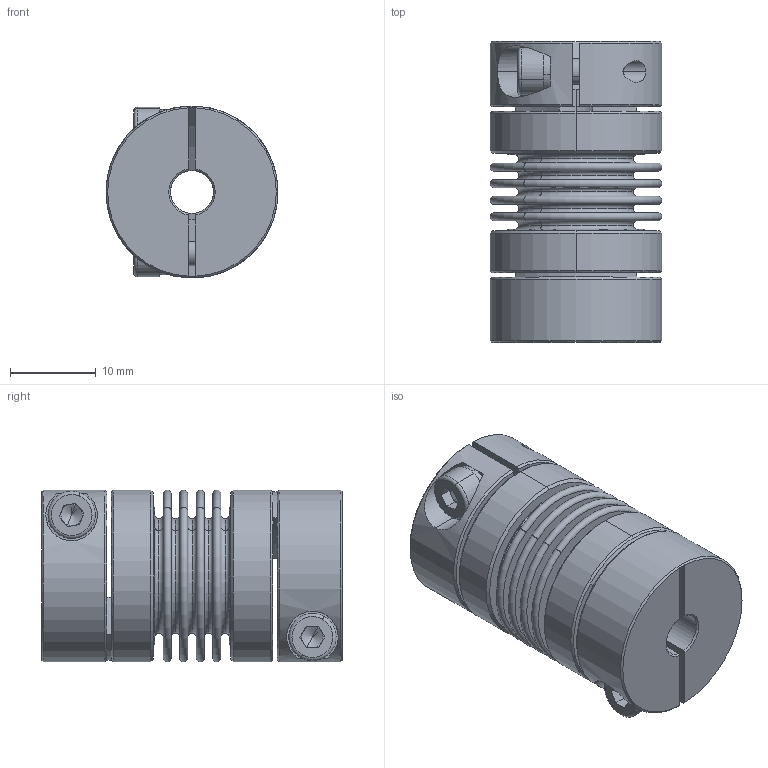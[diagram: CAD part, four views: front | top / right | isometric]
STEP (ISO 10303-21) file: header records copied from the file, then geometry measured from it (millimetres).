
FILE_DESCRIPTION (( 'STEP AP203' ), '1' );
FILE_NAME ('LB-B-D20L34-5-6.35.STEP', '2021-11-04T01:39:15', ( '' ), ( '' ), 'SwSTEP 2.0', 'SolidWorks 2018', '' );
FILE_SCHEMA (( 'CONFIG_CONTROL_DESIGN' ));
Length unit declared in the file: millimetre
Products named in the file (2): LB-B-D20L34-5-6.35; 零件4^LB-B-D20L34 波纹管联轴器-组装体
Assembly tree (1 placements, depth 2):
  LB-B-D20L34-5-6.35
    零件4^LB-B-D20L34 波纹管联轴器-组装体
Bounding box: 20 x 35 x 20 mm (x, y, z)
Volume: 6175.5 mm3; surface area: 9570.5 mm2
Topology: 1 solids, 1 shells, 246 faces, 578 edges, 358 vertices
Faces by surface type: plane 82, torus 68, cylinder 62, cone 34
Entity records: 7554 total; most frequent: CARTESIAN_POINT 1494, DIRECTION 1382, ORIENTED_EDGE 1148, AXIS2_PLACEMENT_3D 606, EDGE_CURVE 574, VERTEX_POINT 358, CIRCLE 356, EDGE_LOOP 288
